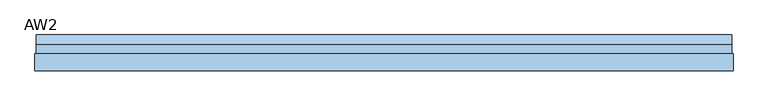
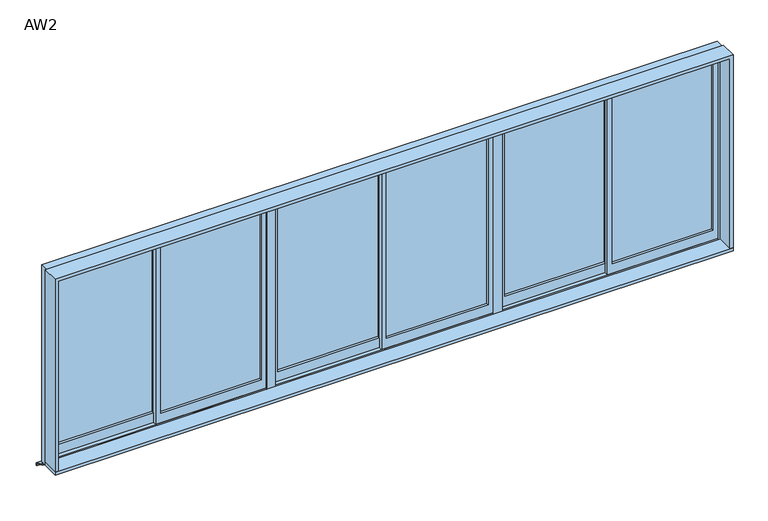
"""IFC4 building model written with IfcOpenShell, lengths in millimetres: window geometry, 営_連窓_引違い3 : AW2."""

from ifc_helpers import new_model, si_unit, frame, origin, place, context, project, spatial, polyline, outline, extrude, source, transform, mapped, element, save


def aw2_a9c71f60(model_context):
    return source(origin(), model_context, "Body", "SweptSolid", [
        extrude(outline(polyline([(2632.5, -20.0), (1827.5, -20.0), (1827.5, -15.0), (2632.5, -15.0), (2632.5, -20.0)])), frame((0.0, 0.0, 1180.0), z_axis=(0.0, 0.0, 1.0), x_axis=(1.0, 0.0, 0.0)), (0.0, 0.0, 1.0), 1465.0),
        extrude(outline(polyline([(1787.5, 10.0), (982.5, 10.0), (982.5, 15.0), (1787.5, 15.0), (1787.5, 10.0)])), frame((0.0, 0.0, 1180.0), z_axis=(0.0, 0.0, 1.0), x_axis=(1.0, 0.0, 0.0)), (0.0, 0.0, 1.0), 1465.0),
        extrude(outline(polyline([(1100.0, 2672.5), (2685.0, 2672.5), (2685.0, 1787.5), (1100.0, 1787.5), (1100.0, 2672.5)]), holes=[polyline([(1180.0, 2632.5), (1180.0, 1827.5), (2645.0, 1827.5), (2645.0, 2632.5), (1180.0, 2632.5)])]), frame((0.0, -40.0, 0.0), z_axis=(0.0, 1.0, 0.0), x_axis=(0.0, 0.0, 1.0)), (0.0, 0.0, 1.0), 30.0),
        extrude(outline(polyline([(1100.0, 1827.5), (2685.0, 1827.5), (2685.0, 942.5), (1100.0, 942.5), (1100.0, 1827.5)]), holes=[polyline([(1180.0, 1787.5), (1180.0, 982.5), (2645.0, 982.5), (2645.0, 1787.5), (1180.0, 1787.5)])]), frame((0.0, -10.0, 0.0), z_axis=(0.0, 1.0, 0.0), x_axis=(0.0, 0.0, 1.0)), (0.0, 0.0, 1.0), 30.0),
        extrude(outline(polyline([(832.5, -20.0), (20.0, -20.0), (20.0, -15.0), (832.5, -15.0), (832.5, -20.0)])), frame((0.0, 0.0, 1180.0), z_axis=(0.0, 0.0, 1.0), x_axis=(1.0, 0.0, 0.0)), (0.0, 0.0, 1.0), 1465.0),
        extrude(outline(polyline([(-20.0, 10.0), (-832.5, 10.0), (-832.5, 15.0), (-20.0, 15.0), (-20.0, 10.0)])), frame((0.0, 0.0, 1180.0), z_axis=(0.0, 0.0, 1.0), x_axis=(1.0, 0.0, 0.0)), (0.0, 0.0, 1.0), 1465.0),
        extrude(outline(polyline([(1100.0, 872.5), (2685.0, 872.5), (2685.0, -20.0), (1100.0, -20.0), (1100.0, 872.5)]), holes=[polyline([(1180.0, 832.5), (1180.0, 20.0), (2645.0, 20.0), (2645.0, 832.5), (1180.0, 832.5)])]), frame((0.0, -40.0, 0.0), z_axis=(0.0, 1.0, 0.0), x_axis=(0.0, 0.0, 1.0)), (0.0, 0.0, 1.0), 30.0),
        extrude(outline(polyline([(1100.0, 20.0), (2685.0, 20.0), (2685.0, -872.5), (1100.0, -872.5), (1100.0, 20.0)]), holes=[polyline([(1180.0, -20.0), (1180.0, -832.5), (2645.0, -832.5), (2645.0, -20.0), (1180.0, -20.0)])]), frame((0.0, -10.0, 0.0), z_axis=(0.0, 1.0, 0.0), x_axis=(0.0, 0.0, 1.0)), (0.0, 0.0, 1.0), 30.0),
        extrude(outline(polyline([(-982.5, -20.0), (-1787.5, -20.0), (-1787.5, -15.0), (-982.5, -15.0), (-982.5, -20.0)])), frame((0.0, 0.0, 1180.0), z_axis=(0.0, 0.0, 1.0), x_axis=(1.0, 0.0, 0.0)), (0.0, 0.0, 1.0), 1465.0),
        extrude(outline(polyline([(-1827.5, 10.0), (-2632.5, 10.0), (-2632.5, 15.0), (-1827.5, 15.0), (-1827.5, 10.0)])), frame((0.0, 0.0, 1180.0), z_axis=(0.0, 0.0, 1.0), x_axis=(1.0, 0.0, 0.0)), (0.0, 0.0, 1.0), 1465.0),
        extrude(outline(polyline([(1100.0, -942.5), (2685.0, -942.5), (2685.0, -1827.5), (1100.0, -1827.5), (1100.0, -942.5)]), holes=[polyline([(1180.0, -982.5), (1180.0, -1787.5), (2645.0, -1787.5), (2645.0, -982.5), (1180.0, -982.5)])]), frame((0.0, -40.0, 0.0), z_axis=(0.0, 1.0, 0.0), x_axis=(0.0, 0.0, 1.0)), (0.0, 0.0, 1.0), 30.0),
        extrude(outline(polyline([(1100.0, -1787.5), (2685.0, -1787.5), (2685.0, -2672.5), (1100.0, -2672.5), (1100.0, -1787.5)]), holes=[polyline([(1180.0, -1827.5), (1180.0, -2632.5), (2645.0, -2632.5), (2645.0, -1827.5), (1180.0, -1827.5)])]), frame((0.0, -10.0, 0.0), z_axis=(0.0, 1.0, 0.0), x_axis=(0.0, 0.0, 1.0)), (0.0, 0.0, 1.0), 30.0),
        extrude(outline(polyline([(-872.5, -45.0), (-942.5, -45.0), (-942.5, 25.0), (-872.5, 25.0), (-872.5, -45.0)])), frame((0.0, 0.0, 1090.0), z_axis=(0.0, 0.0, 1.0), x_axis=(1.0, 0.0, 0.0)), (0.0, 0.0, 1.0), 1595.0),
        extrude(outline(polyline([(942.5, -45.0), (872.5, -45.0), (872.5, 25.0), (942.5, 25.0), (942.5, -45.0)])), frame((0.0, 0.0, 1090.0), z_axis=(0.0, 0.0, 1.0), x_axis=(1.0, 0.0, 0.0)), (0.0, 0.0, 1.0), 1595.0),
        extrude(outline(polyline([(2712.5, -180.0), (-2712.5, -180.0), (-2712.5, -45.0), (2712.5, -45.0), (2712.5, -180.0)])), frame((0.0, 0.0, 1065.0), z_axis=(0.0, 0.0, 1.0), x_axis=(1.0, 0.0, 0.0)), (0.0, 0.0, 1.0), 25.0),
        extrude(outline(polyline([(15.0, 1035.0), (100.0, 995.0), (100.0, 975.0), (95.0014518, 975.0), (95.0014518, 991.8262891), (10.0, 1031.8269723), (10.0, 1050.0), (15.0, 1050.0), (15.0, 1035.0)])), frame((-2702.5, 0.0, 0.0), z_axis=(1.0, 0.0, 0.0), x_axis=(0.0, 1.0, 0.0)), (0.0, 0.0, 1.0), 5405.0),
        extrude(outline(polyline([(1065.0, -2712.5), (1065.0, -2687.5), (2695.0, -2687.5), (2695.0, 2687.5), (1065.0, 2687.5), (1065.0, 2712.5), (2720.0, 2712.5), (2720.0, -2712.5), (1065.0, -2712.5)])), frame((0.0, -180.0, 0.0), z_axis=(0.0, 1.0, 0.0), x_axis=(0.0, 0.0, 1.0)), (0.0, 0.0, 1.0), 135.0),
        extrude(outline(polyline([(1050.0, -2702.5), (1050.0, -2672.5), (2685.0, -2672.5), (2685.0, 2672.5), (1050.0, 2672.5), (1050.0, 2702.5), (2715.0, 2702.5), (2715.0, -2702.5), (1050.0, -2702.5)])), frame((0.0, -45.0, 0.0), z_axis=(0.0, 1.0, 0.0), x_axis=(0.0, 0.0, 1.0)), (0.0, 0.0, 1.0), 70.0),
        extrude(outline(polyline([(-45.0, 1050.0), (-45.0, 1100.0), (25.0, 1090.6666667), (25.0, 1050.0), (-45.0, 1050.0)])), frame((-2672.5, 0.0, 0.0), z_axis=(1.0, 0.0, 0.0), x_axis=(0.0, 1.0, 0.0)), (0.0, 0.0, 1.0), 5345.0),
    ])


if __name__ == "__main__":
    model = new_model("IFC4")
    model_context = context("Model", 3, world=origin())
    ifc_project = project(units=[si_unit("LENGTHUNIT", "METRE", prefix="MILLI")], contexts=[model_context])
    site = spatial("IfcSite", under=ifc_project)
    building = spatial("IfcBuilding", under=site)
    placement = place(None, origin())
    aw2_shape = aw2_a9c71f60(model_context)
    element("IfcWindow", 1, ObjectType="営_連窓_引違い3 : AW2", at=placement, inside=building, context=model_context, shape_type="MappedRepresentation", body=[
        mapped(aw2_shape, transform((0.0, 0.0, 0.0), x_axis=(1.0, 0.0, 0.0), y_axis=(0.0, 1.0, 0.0), z_axis=(0.0, 0.0, 1.0))),
    ])
    save(model, "model.ifc")
